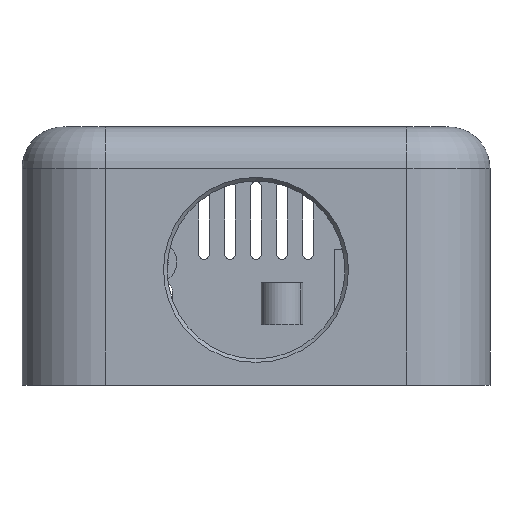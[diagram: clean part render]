
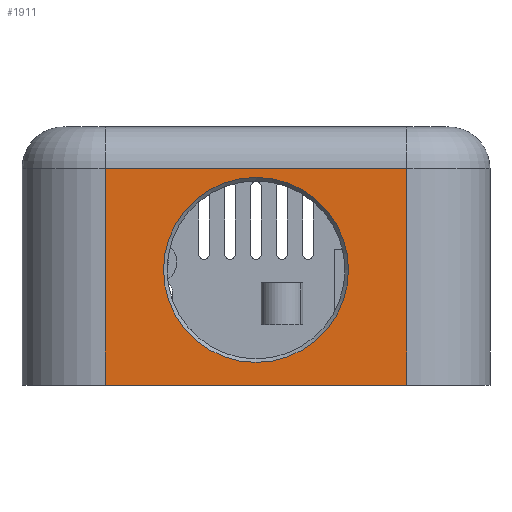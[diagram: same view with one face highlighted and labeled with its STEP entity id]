
A CAD part, front view. The second image highlights one B-rep face of the part: STEP entity #1911.
In plain terms, the highlighted planar face has unit normal (0, -1, 0).
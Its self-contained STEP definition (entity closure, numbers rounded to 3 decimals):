
#62 = CYLINDRICAL_SURFACE('',#63,16.);
#63 = AXIS2_PLACEMENT_3D('',#64,#65,#66);
#64 = CARTESIAN_POINT('',(-29.,-23.,0.));
#65 = DIRECTION('',(0.,0.,1.));
#66 = DIRECTION('',(-1.,-0.,0.));
#89 = PLANE('',#90);
#90 = AXIS2_PLACEMENT_3D('',#91,#92,#93);
#91 = CARTESIAN_POINT('',(-100.,-100.,24.35));
#92 = DIRECTION('',(0.,0.,1.));
#93 = DIRECTION('',(1.,0.,0.));
#371 = VERTEX_POINT('',#372);
#372 = CARTESIAN_POINT('',(-29.,-39.,24.35));
#394 = EDGE_CURVE('',#371,#395,#397,.T.);
#395 = VERTEX_POINT('',#396);
#396 = CARTESIAN_POINT('',(-29.,-39.,66.));
#397 = SURFACE_CURVE('',#398,(#402,#409),.PCURVE_S1.);
#398 = LINE('',#399,#400);
#399 = CARTESIAN_POINT('',(-29.,-39.,0.));
#400 = VECTOR('',#401,1.);
#401 = DIRECTION('',(0.,0.,1.));
#402 = PCURVE('',#62,#403);
#403 = DEFINITIONAL_REPRESENTATION('',(#404),#408);
#404 = LINE('',#405,#406);
#405 = CARTESIAN_POINT('',(1.571,0.));
#406 = VECTOR('',#407,1.);
#407 = DIRECTION('',(0.,1.));
#408 = ( GEOMETRIC_REPRESENTATION_CONTEXT(2) 
PARAMETRIC_REPRESENTATION_CONTEXT() REPRESENTATION_CONTEXT('2D SPACE',''
  ) );
#409 = PCURVE('',#410,#415);
#410 = PLANE('',#411);
#411 = AXIS2_PLACEMENT_3D('',#412,#413,#414);
#412 = CARTESIAN_POINT('',(-45.,-39.,0.));
#413 = DIRECTION('',(0.,1.,0.));
#414 = DIRECTION('',(0.,0.,1.));
#415 = DEFINITIONAL_REPRESENTATION('',(#416),#420);
#416 = LINE('',#417,#418);
#417 = CARTESIAN_POINT('',(0.,16.));
#418 = VECTOR('',#419,1.);
#419 = DIRECTION('',(1.,0.));
#420 = ( GEOMETRIC_REPRESENTATION_CONTEXT(2) 
PARAMETRIC_REPRESENTATION_CONTEXT() REPRESENTATION_CONTEXT('2D SPACE',''
  ) );
#478 = EDGE_CURVE('',#371,#479,#481,.T.);
#479 = VERTEX_POINT('',#480);
#480 = CARTESIAN_POINT('',(29.,-39.,24.35));
#481 = SURFACE_CURVE('',#482,(#486,#492),.PCURVE_S1.);
#482 = LINE('',#483,#484);
#483 = CARTESIAN_POINT('',(-72.5,-39.,24.35));
#484 = VECTOR('',#485,1.);
#485 = DIRECTION('',(1.,0.,0.));
#486 = PCURVE('',#89,#487);
#487 = DEFINITIONAL_REPRESENTATION('',(#488),#491);
#488 = B_SPLINE_CURVE_WITH_KNOTS('',1,(#489,#490),.UNSPECIFIED.,.F.,.F.,
  (2,2),(43.5,101.5),.PIECEWISE_BEZIER_KNOTS.);
#489 = CARTESIAN_POINT('',(71.,61.));
#490 = CARTESIAN_POINT('',(129.,61.));
#491 = ( GEOMETRIC_REPRESENTATION_CONTEXT(2) 
PARAMETRIC_REPRESENTATION_CONTEXT() REPRESENTATION_CONTEXT('2D SPACE',''
  ) );
#492 = PCURVE('',#410,#493);
#493 = DEFINITIONAL_REPRESENTATION('',(#494),#497);
#494 = B_SPLINE_CURVE_WITH_KNOTS('',1,(#495,#496),.UNSPECIFIED.,.F.,.F.,
  (2,2),(43.5,101.5),.PIECEWISE_BEZIER_KNOTS.);
#495 = CARTESIAN_POINT('',(24.35,16.));
#496 = CARTESIAN_POINT('',(24.35,74.));
#497 = ( GEOMETRIC_REPRESENTATION_CONTEXT(2) 
PARAMETRIC_REPRESENTATION_CONTEXT() REPRESENTATION_CONTEXT('2D SPACE',''
  ) );
#516 = CYLINDRICAL_SURFACE('',#517,16.);
#517 = AXIS2_PLACEMENT_3D('',#518,#519,#520);
#518 = CARTESIAN_POINT('',(29.,-23.,0.));
#519 = DIRECTION('',(0.,0.,1.));
#520 = DIRECTION('',(1.,0.,-0.));
#1873 = CYLINDRICAL_SURFACE('',#1874,8.);
#1874 = AXIS2_PLACEMENT_3D('',#1875,#1876,#1877);
#1875 = CARTESIAN_POINT('',(29.,-31.,66.));
#1876 = DIRECTION('',(-1.,-0.,-0.));
#1877 = DIRECTION('',(0.,-1.,0.));
#1911 = ADVANCED_FACE('',(#1912,#1960),#410,.F.);
#1912 = FACE_BOUND('',#1913,.F.);
#1913 = EDGE_LOOP('',(#1914,#1915,#1916,#1939));
#1914 = ORIENTED_EDGE('',*,*,#478,.F.);
#1915 = ORIENTED_EDGE('',*,*,#394,.T.);
#1916 = ORIENTED_EDGE('',*,*,#1917,.F.);
#1917 = EDGE_CURVE('',#1918,#395,#1920,.T.);
#1918 = VERTEX_POINT('',#1919);
#1919 = CARTESIAN_POINT('',(29.,-39.,66.));
#1920 = SURFACE_CURVE('',#1921,(#1925,#1932),.PCURVE_S1.);
#1921 = LINE('',#1922,#1923);
#1922 = CARTESIAN_POINT('',(29.,-39.,66.));
#1923 = VECTOR('',#1924,1.);
#1924 = DIRECTION('',(-1.,-0.,-0.));
#1925 = PCURVE('',#410,#1926);
#1926 = DEFINITIONAL_REPRESENTATION('',(#1927),#1931);
#1927 = LINE('',#1928,#1929);
#1928 = CARTESIAN_POINT('',(66.,74.));
#1929 = VECTOR('',#1930,1.);
#1930 = DIRECTION('',(-0.,-1.));
#1931 = ( GEOMETRIC_REPRESENTATION_CONTEXT(2) 
PARAMETRIC_REPRESENTATION_CONTEXT() REPRESENTATION_CONTEXT('2D SPACE',''
  ) );
#1932 = PCURVE('',#1873,#1933);
#1933 = DEFINITIONAL_REPRESENTATION('',(#1934),#1938);
#1934 = LINE('',#1935,#1936);
#1935 = CARTESIAN_POINT('',(0.,0.));
#1936 = VECTOR('',#1937,1.);
#1937 = DIRECTION('',(0.,1.));
#1938 = ( GEOMETRIC_REPRESENTATION_CONTEXT(2) 
PARAMETRIC_REPRESENTATION_CONTEXT() REPRESENTATION_CONTEXT('2D SPACE',''
  ) );
#1939 = ORIENTED_EDGE('',*,*,#1940,.F.);
#1940 = EDGE_CURVE('',#479,#1918,#1941,.T.);
#1941 = SURFACE_CURVE('',#1942,(#1946,#1953),.PCURVE_S1.);
#1942 = LINE('',#1943,#1944);
#1943 = CARTESIAN_POINT('',(29.,-39.,0.));
#1944 = VECTOR('',#1945,1.);
#1945 = DIRECTION('',(0.,0.,1.));
#1946 = PCURVE('',#410,#1947);
#1947 = DEFINITIONAL_REPRESENTATION('',(#1948),#1952);
#1948 = LINE('',#1949,#1950);
#1949 = CARTESIAN_POINT('',(0.,74.));
#1950 = VECTOR('',#1951,1.);
#1951 = DIRECTION('',(1.,0.));
#1952 = ( GEOMETRIC_REPRESENTATION_CONTEXT(2) 
PARAMETRIC_REPRESENTATION_CONTEXT() REPRESENTATION_CONTEXT('2D SPACE',''
  ) );
#1953 = PCURVE('',#516,#1954);
#1954 = DEFINITIONAL_REPRESENTATION('',(#1955),#1959);
#1955 = LINE('',#1956,#1957);
#1956 = CARTESIAN_POINT('',(-1.571,0.));
#1957 = VECTOR('',#1958,1.);
#1958 = DIRECTION('',(-0.,1.));
#1959 = ( GEOMETRIC_REPRESENTATION_CONTEXT(2) 
PARAMETRIC_REPRESENTATION_CONTEXT() REPRESENTATION_CONTEXT('2D SPACE',''
  ) );
#1960 = FACE_BOUND('',#1961,.F.);
#1961 = EDGE_LOOP('',(#1962));
#1962 = ORIENTED_EDGE('',*,*,#1963,.F.);
#1963 = EDGE_CURVE('',#1964,#1964,#1966,.T.);
#1964 = VERTEX_POINT('',#1965);
#1965 = CARTESIAN_POINT('',(0.,-39.,64.291));
#1966 = SURFACE_CURVE('',#1967,(#1972,#1979),.PCURVE_S1.);
#1967 = CIRCLE('',#1968,17.791);
#1968 = AXIS2_PLACEMENT_3D('',#1969,#1970,#1971);
#1969 = CARTESIAN_POINT('',(0.,-39.,46.5));
#1970 = DIRECTION('',(0.,1.,0.));
#1971 = DIRECTION('',(0.,-0.,1.));
#1972 = PCURVE('',#410,#1973);
#1973 = DEFINITIONAL_REPRESENTATION('',(#1974),#1978);
#1974 = CIRCLE('',#1975,17.791);
#1975 = AXIS2_PLACEMENT_2D('',#1976,#1977);
#1976 = CARTESIAN_POINT('',(46.5,45.));
#1977 = DIRECTION('',(1.,0.));
#1978 = ( GEOMETRIC_REPRESENTATION_CONTEXT(2) 
PARAMETRIC_REPRESENTATION_CONTEXT() REPRESENTATION_CONTEXT('2D SPACE',''
  ) );
#1979 = PCURVE('',#1980,#1985);
#1980 = CONICAL_SURFACE('',#1981,17.8,0.719);
#1981 = AXIS2_PLACEMENT_3D('',#1982,#1983,#1984);
#1982 = CARTESIAN_POINT('',(0.,-39.01,46.5));
#1983 = DIRECTION('',(-0.,-1.,-0.));
#1984 = DIRECTION('',(0.,-0.,1.));
#1985 = DEFINITIONAL_REPRESENTATION('',(#1986),#1990);
#1986 = LINE('',#1987,#1988);
#1987 = CARTESIAN_POINT('',(-0.,-0.01));
#1988 = VECTOR('',#1989,1.);
#1989 = DIRECTION('',(-1.,-0.));
#1990 = ( GEOMETRIC_REPRESENTATION_CONTEXT(2) 
PARAMETRIC_REPRESENTATION_CONTEXT() REPRESENTATION_CONTEXT('2D SPACE',''
  ) );
